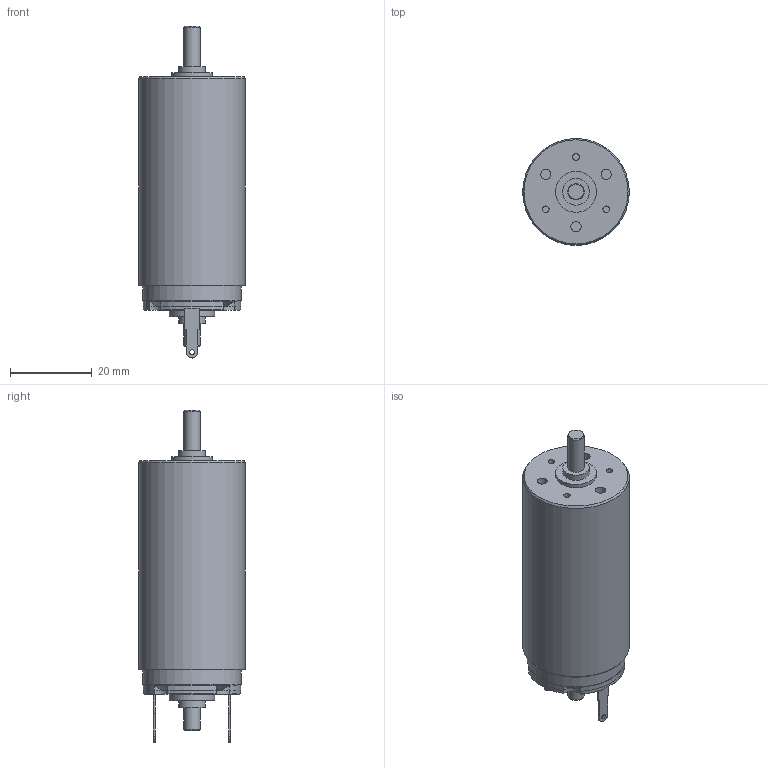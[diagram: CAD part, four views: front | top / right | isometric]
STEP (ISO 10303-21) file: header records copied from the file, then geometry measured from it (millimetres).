
FILE_DESCRIPTION(/* description */ (''),/* implementation_level */ '2;1');
FILE_NAME(/* name */ '2657.CXR.stp',/* time_stamp */ '2012-11-06T13:37:01+01:00',/* author */ ('DR. FRITZ FAULHABER GmbH & Co. KG'),/* organization */ ('DR. FRITZ FAULHABER GmbH & Co. KG'),/* preprocessor_version */ 'ST-DEVELOPER v11',/* originating_system */ 'SIEMENS PLM Software NX 7.5',/* authorisation */ '');
FILE_SCHEMA (('AUTOMOTIVE_DESIGN { 1 0 10303 214 1 1 1 1 }'));
Length unit declared in the file: millimetre
Products named in the file (1): 2657.CXR
Bounding box: 26 x 26 x 81 mm (x, y, z)
Volume: 30187.9 mm3; surface area: 6513.9 mm2
Topology: 1 solids, 1 shells, 114 faces, 270 edges, 175 vertices
Faces by surface type: plane 49, cylinder 43, cone 16, sphere 6
Full cylindrical faces by diameter (mm): 1.2 x2, 1.41 x2, 1.6 x3, 1.8 x4, 2.5 x3, 4 x2, 6.5 x2, 10 x1, 11 x1, 20.8 x1, 23.8 x1, 24 x1, 26 x1
Entity records: 3178 total; most frequent: CARTESIAN_POINT 648, DIRECTION 548, ORIENTED_EDGE 448, AXIS2_PLACEMENT_3D 225, EDGE_CURVE 224, EDGE_LOOP 171, VERTEX_POINT 165, ADVANCED_FACE 114
